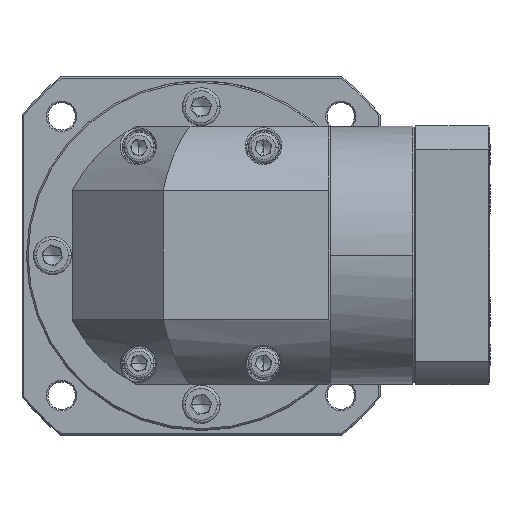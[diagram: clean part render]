
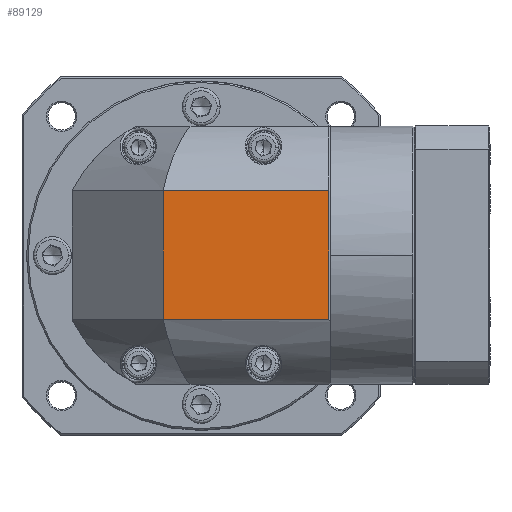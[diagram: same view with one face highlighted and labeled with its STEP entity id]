
A CAD part, top view. The second image highlights one B-rep face of the part: STEP entity #89129.
In plain terms, the highlighted planar face has unit normal (0, 0, 1).
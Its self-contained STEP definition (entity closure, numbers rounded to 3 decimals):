
#9863 = EDGE_CURVE ( 'NONE', #124144, #85563, #139849, .T. ) ;
#13651 = CARTESIAN_POINT ( 'NONE',  ( -5.935, 53.293, 28.565 ) ) ;
#18135 = CARTESIAN_POINT ( 'NONE',  ( 94.065, 53.293, 28.565 ) ) ;
#31054 = ORIENTED_EDGE ( 'NONE', *, *, #113891, .F. ) ;
#40166 = DIRECTION ( 'NONE',  ( 0., 0., 1. ) ) ;
#41951 = FACE_OUTER_BOUND ( 'NONE', #110618, .T. ) ;
#49200 = DIRECTION ( 'NONE',  ( 0., 1., 0. ) ) ;
#53016 = LINE ( 'NONE', #13651, #137686 ) ;
#54056 = CARTESIAN_POINT ( 'NONE',  ( -5.935, 95.719, 28.565 ) ) ;
#54789 = LINE ( 'NONE', #60015, #107236 ) ;
#60015 = CARTESIAN_POINT ( 'NONE',  ( 39.565, 74.506, 28.565 ) ) ;
#62300 = PLANE ( 'NONE',  #92339 ) ;
#71493 = LINE ( 'NONE', #100400, #105246 ) ;
#85563 = VERTEX_POINT ( 'NONE', #129533 ) ;
#88955 = VECTOR ( 'NONE', #139642, 1000. ) ;
#89129 = ADVANCED_FACE ( 'NONE', ( #41951 ), #62300, .T. ) ;
#92274 = DIRECTION ( 'NONE',  ( 0., 1., 0. ) ) ;
#92339 = AXIS2_PLACEMENT_3D ( 'NONE', #104362, #40166, #94480 ) ;
#94232 = ORIENTED_EDGE ( 'NONE', *, *, #121109, .T. ) ;
#94480 = DIRECTION ( 'NONE',  ( 1., 0., 0. ) ) ;
#96350 = ORIENTED_EDGE ( 'NONE', *, *, #9863, .F. ) ;
#100400 = CARTESIAN_POINT ( 'NONE',  ( 94.065, 74.506, 28.565 ) ) ;
#104362 = CARTESIAN_POINT ( 'NONE',  ( 52.065, 74.506, 28.565 ) ) ;
#105246 = VECTOR ( 'NONE', #92274, 1000. ) ;
#107236 = VECTOR ( 'NONE', #49200, 1000. ) ;
#110618 = EDGE_LOOP ( 'NONE', ( #96350, #31054, #132161, #94232 ) ) ;
#110750 = VERTEX_POINT ( 'NONE', #18135 ) ;
#113891 = EDGE_CURVE ( 'NONE', #119977, #124144, #54789, .T. ) ;
#119977 = VERTEX_POINT ( 'NONE', #135629 ) ;
#120298 = EDGE_CURVE ( 'NONE', #110750, #119977, #53016, .T. ) ;
#121109 = EDGE_CURVE ( 'NONE', #110750, #85563, #71493, .T. ) ;
#123522 = CARTESIAN_POINT ( 'NONE',  ( 39.565, 95.719, 28.565 ) ) ;
#124144 = VERTEX_POINT ( 'NONE', #123522 ) ;
#129533 = CARTESIAN_POINT ( 'NONE',  ( 94.065, 95.719, 28.565 ) ) ;
#132161 = ORIENTED_EDGE ( 'NONE', *, *, #120298, .F. ) ;
#133135 = DIRECTION ( 'NONE',  ( -1., 0., 0. ) ) ;
#135629 = CARTESIAN_POINT ( 'NONE',  ( 39.565, 53.293, 28.565 ) ) ;
#137686 = VECTOR ( 'NONE', #133135, 1000. ) ;
#139642 = DIRECTION ( 'NONE',  ( 1., 0., 0. ) ) ;
#139849 = LINE ( 'NONE', #54056, #88955 ) ;
